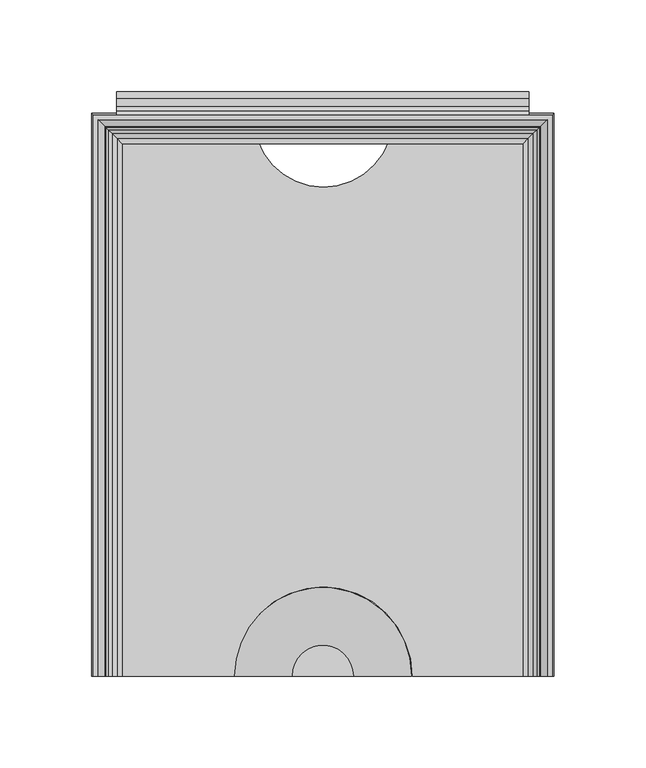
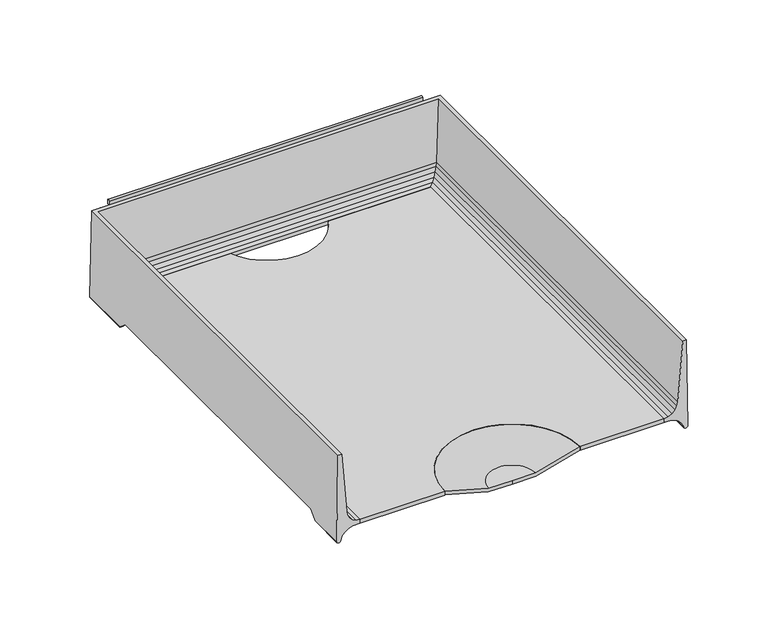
"""IFC4 building model written with IfcOpenShell, lengths in millimetres: furniture geometry."""

from ifc_helpers import new_model, si_unit, point, frame, frame_2d, origin, place, context, project, spatial, polyline, circle_curve, ellipse_curve, trimmed, segment, composite_curve, outline, extrude, source, transform, mapped, element, save
from ifc_brep_helpers import plane_surface, cylinder_surface, revolved_surface, advanced_brep


def furniture_ed62e435(model_context):
    return source(origin(), model_context, "Body", "SolidModel", [
        advanced_brep(
        [(126.0820502, -154.0206082, 875.9882489), (125.1325529, -154.0206082, 941.3876914), (122.4547921, -154.0206082, 941.3876914), (118.8379747, -154.0206082, 896.6006003), (118.4123648, -154.0206082, 893.8671052), (117.0774354, -154.0206082, 891.1660664), (114.9656457, -154.0206082, 889.0171015), (112.28832, -154.0206082, 887.6352261), (109.3133381, -154.0206082, 887.1587052), (109.3133381, -154.0206082, 884.3365971), (114.5666739, -154.0206082, 884.1435987), (117.605351, -154.0206082, 883.0872218), (120.2416, -154.0206082, 881.2433822), (122.2762142, -154.0206082, 878.7514079), (123.1625518, -154.0206082, 875.7081655), (126.0820502, -127.6379698, 875.9882489), (126.0026181, -121.5231874, 881.459372), (126.0026181, 109.0611937, 881.459372), (126.0820502, 115.1759816, 875.9882489), (126.0820502, 153.036442, 875.9882489), (125.1325529, 152.0869447, 941.3876914), (-125.1325529, 152.0869447, 941.3876914), (-125.1325529, -154.0206082, 941.3876914), (-122.4547921, -154.0206082, 941.3876914), (-122.4547921, 149.4091839, 941.3876914), (122.4547921, 149.4091839, 941.3876914), (118.8379747, 145.7923665, 896.6006003), (118.4123648, 145.3667566, 893.8671052), (117.0774354, 144.0318272, 891.1660664), (114.9656457, 141.9200375, 889.0171015), (112.28832, 139.2427118, 887.6352261), (109.3133381, 136.2677299, 887.1587052), (109.3133381, 136.2677299, 884.3365971), (114.5666739, 141.5210656, 884.1435987), (117.605351, 144.5597428, 883.0872218), (120.2416, 147.1959918, 881.2433822), (120.2416, 109.3025941, 881.2433822), (119.9327864, 109.0611937, 881.459372), (119.9327864, -121.5231874, 881.459372), (120.2416, -121.7645876, 881.2433822), (122.2762142, -124.5497344, 878.7514079), (122.2762142, 149.230606, 878.7514079), (122.2762142, 112.0877435, 878.7514079), (123.1625518, -127.9510041, 875.7081655), (123.1625518, 150.1169436, 875.7081655), (123.1625518, 115.4890162, 875.7081655), (-126.0820502, 153.036442, 875.9882489), (-118.8379747, 145.7923665, 896.6006003), (-118.4123648, 145.3667566, 893.8671052), (-117.0774354, 144.0318272, 891.1660664), (-114.9656457, 141.9200375, 889.0171015), (-112.28832, 139.2427118, 887.6352261), (-109.3133381, 136.2677299, 887.1587052), (-109.3133381, 136.2677299, 884.3365971), (-114.5666739, 141.5210656, 884.1435987), (-117.605351, 144.5597428, 883.0872218), (-120.2416, 147.1959918, 881.2433822), (-122.2762142, 149.230606, 878.7514079), (-123.1625518, 150.1169436, 875.7081655), (-126.0820502, -154.0206082, 875.9882489), (-123.1625518, -154.0206082, 875.7081655), (-122.2762142, -154.0206082, 878.7514079), (-120.2416, -154.0206082, 881.2433822), (-117.605351, -154.0206082, 883.0872218), (-114.5666739, -154.0206082, 884.1435987), (-109.3133381, -154.0206082, 884.3365971), (-109.3133381, -154.0206082, 887.1587052), (-112.28832, -154.0206082, 887.6352261), (-114.9656457, -154.0206082, 889.0171015), (-117.0774354, -154.0206082, 891.1660664), (-118.4123648, -154.0206082, 893.8671052), (-118.8379747, -154.0206082, 896.6006003), (-126.0820502, 115.1759816, 875.9882489), (-126.0026181, 109.0611937, 881.459372), (-126.0026181, -121.5231874, 881.459372), (-126.0820502, -127.6379698, 875.9882489), (-120.2416, -121.7645876, 881.2433822), (-119.9327864, -121.5231874, 881.459372), (-119.9327864, 109.0611937, 881.459372), (-120.2416, 109.3025941, 881.2433822), (-122.2762142, 112.0877435, 878.7514079), (-122.2762142, -124.5497344, 878.7514079), (-123.1625518, 115.4890162, 875.7081655), (-123.1625518, -127.9510041, 875.7081655)],
        [
            (0, 1),
            (1, 2),
            (2, 3),
            (3, 4),
            (4, 5),
            (5, 6),
            (6, 7),
            (7, 8),
            (8, 9),
            (9, 10),
            (10, 11),
            (11, 12),
            (12, 13),
            (13, 14),
            (14, 0, circle_curve(frame((124.5859452, -154.0206082, 876.2271685), z_axis=(0.0, -1.0, 0.0), x_axis=(-1.0, 0.0, 0.0)), 1.515062)),
            (0, 15),
            (15, 16),
            (16, 17),
            (17, 18),
            (18, 19),
            (19, 20),
            (20, 1),
            (20, 21),
            (21, 22),
            (22, 23),
            (23, 24),
            (24, 25),
            (25, 2),
            (25, 26),
            (26, 3),
            (26, 27),
            (27, 4),
            (27, 28),
            (28, 5),
            (28, 29),
            (29, 6),
            (29, 30),
            (30, 7),
            (30, 31),
            (31, 8),
            (31, 32),
            (32, 9),
            (32, 33),
            (33, 10),
            (33, 34),
            (34, 11),
            (34, 35),
            (35, 36),
            (36, 37),
            (37, 38),
            (38, 39),
            (39, 12),
            (39, 40),
            (40, 13),
            (35, 41),
            (41, 42),
            (42, 36),
            (40, 43),
            (43, 14),
            (41, 44),
            (44, 45),
            (45, 42),
            (43, 15, ellipse_curve(frame((124.5859452, -127.3709422, 876.2271685), z_axis=(0.0, -0.6667949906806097, 0.7452411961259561), x_axis=(0.0, -0.7452411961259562, -0.6667949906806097)), 2.2721556, 1.515062)),
            (44, 19, ellipse_curve(frame((124.5859452, 151.540337, 876.2271685), z_axis=(0.7071067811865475, -0.7071067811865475, 0.0), x_axis=(-0.7071067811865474, -0.7071067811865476, 0.0)), 2.1426212, 1.515062)),
            (18, 45, ellipse_curve(frame((124.5859452, 114.9089538, 876.2271685), z_axis=(0.0, 0.6667946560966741, 0.7452414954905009), x_axis=(0.0, -0.7452414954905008, 0.6667946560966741)), 2.2721567, 1.515062)),
            (19, 46),
            (46, 21),
            (24, 47),
            (47, 26),
            (47, 48),
            (48, 27),
            (48, 49),
            (49, 28),
            (49, 50),
            (50, 29),
            (50, 51),
            (51, 30),
            (51, 52),
            (52, 31),
            (52, 53),
            (53, 32),
            (53, 54),
            (54, 33),
            (54, 55),
            (55, 34),
            (55, 56),
            (56, 35),
            (56, 57),
            (57, 41),
            (57, 58),
            (58, 44),
            (58, 46, ellipse_curve(frame((-124.5859452, 151.540337, 876.2271685), z_axis=(0.7071067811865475, 0.7071067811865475, 0.0), x_axis=(0.7071067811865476, -0.7071067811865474, 0.0)), 2.1426212, 1.515062)),
            (22, 59),
            (59, 60, circle_curve(frame((-124.5859452, -154.0206082, 876.2271685), z_axis=(0.0, -1.0, 0.0), x_axis=(1.0, 0.0, 0.0)), 1.515062)),
            (60, 61),
            (61, 62),
            (62, 63),
            (63, 64),
            (64, 65),
            (65, 66),
            (66, 67),
            (67, 68),
            (68, 69),
            (69, 70),
            (70, 71),
            (71, 23),
            (46, 72),
            (72, 73),
            (73, 74),
            (74, 75),
            (75, 59),
            (71, 47),
            (70, 48),
            (69, 49),
            (68, 50),
            (67, 51),
            (66, 52),
            (65, 53),
            (64, 54),
            (63, 55),
            (62, 76),
            (76, 77),
            (77, 78),
            (78, 79),
            (79, 56),
            (79, 80),
            (80, 57),
            (61, 81),
            (81, 76),
            (80, 82),
            (82, 58),
            (60, 83),
            (83, 81),
            (82, 72, ellipse_curve(frame((-124.5859452, 114.9089538, 876.2271685), z_axis=(0.0, 0.6667946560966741, 0.7452414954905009), x_axis=(0.0, 0.7452414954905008, -0.6667946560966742)), 2.2721567, 1.515062)),
            (75, 83, ellipse_curve(frame((-124.5859452, -127.3709422, 876.2271685), z_axis=(0.0, -0.6667949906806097, 0.7452411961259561), x_axis=(0.0, 0.745241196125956, 0.6667949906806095)), 2.2721556, 1.515062)),
            (38, 16),
            (74, 77),
            (37, 17),
            (73, 78),
        ],
        [
            plane_surface(frame((127.0, -154.0206082, 874.7125), z_axis=(0.0, -1.0, 0.0), x_axis=(0.0, 0.0, 1.0))),
            plane_surface(frame((126.0820502, -154.0206082, 875.9882489), z_axis=(0.9998946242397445, 0.0, 0.014516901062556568), x_axis=(0.0, 1.0, 0.0))),
            plane_surface(frame((125.1325529, -154.0206082, 941.3876914), z_axis=(0.0, 0.0, 1.0), x_axis=(0.0, 1.0, 0.0))),
            plane_surface(frame((122.4547921, -154.0206082, 941.3876914), z_axis=(-0.9967551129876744, 0.0, 0.08049375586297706), x_axis=(0.0, 1.0, 0.0))),
            plane_surface(frame((118.8379747, -154.0206082, 896.6006003), z_axis=(-0.9880945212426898, 0.0, 0.15384803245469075), x_axis=(0.0, 1.0, 0.0))),
            plane_surface(frame((118.4123648, -154.0206082, 893.8671052), z_axis=(-0.8964873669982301, 0.0, 0.44306929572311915), x_axis=(0.0, 1.0, 0.0))),
            plane_surface(frame((117.0774354, -154.0206082, 891.1660664), z_axis=(-0.7132491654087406, 0.0, 0.7009105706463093), x_axis=(0.0, 1.0, 0.0))),
            plane_surface(frame((114.9656457, -154.0206082, 889.0171015), z_axis=(-0.45865074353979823, 0.0, 0.8886166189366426), x_axis=(0.0, 1.0, 0.0))),
            plane_surface(frame((112.28832, -154.0206082, 887.6352261), z_axis=(-0.15816001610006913, 0.0, 0.987413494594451), x_axis=(0.0, 1.0, 0.0))),
            plane_surface(frame((109.3133381, -154.0206082, 887.1587052), z_axis=(-1.0, 0.0, 0.0), x_axis=(0.0, 1.0, 0.0))),
            plane_surface(frame((109.3133381, -154.0206082, 884.3365971), z_axis=(-0.036713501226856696, 0.0, -0.9993258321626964), x_axis=(0.0, 1.0, 0.0))),
            plane_surface(frame((114.5666739, -154.0206082, 884.1435987), z_axis=(-0.3283669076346, 0.0, -0.9445502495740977), x_axis=(0.0, 1.0, 0.0))),
            plane_surface(frame((117.605351, -154.0206082, 883.0872218), z_axis=(-0.5731421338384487, 0.0, -0.819455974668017), x_axis=(0.0, 1.0, 0.0))),
            plane_surface(frame((120.2416, -154.0206082, 881.2433822), z_axis=(-0.77460799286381, 0.0, -0.6324416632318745), x_axis=(0.0, 1.0, 0.0))),
            plane_surface(frame((122.2762142, -154.0206082, 878.7514079), z_axis=(-0.9601080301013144, 0.0, -0.2796293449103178), x_axis=(0.0, 1.0, 0.0))),
            cylinder_surface(frame((124.5859452, -154.0206082, 876.2271685), z_axis=(0.0, -1.0, 0.0), x_axis=(-1.0, 0.0, 0.0)), 1.515062),
            plane_surface(frame((126.0820502, 153.036442, 875.9882489), z_axis=(0.0, 0.9998946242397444, 0.014516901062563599), x_axis=(-1.0, 0.0, 0.0))),
            plane_surface(frame((122.4547921, 149.4091839, 941.3876914), z_axis=(0.0, -0.9967551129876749, 0.08049375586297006), x_axis=(-1.0, 0.0, 0.0))),
            plane_surface(frame((118.8379747, 145.7923665, 896.6006003), z_axis=(0.0, -0.9880945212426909, 0.15384803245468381), x_axis=(-1.0, 0.0, 0.0))),
            plane_surface(frame((118.4123648, 145.3667566, 893.8671052), z_axis=(0.0, -0.8964873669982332, 0.4430692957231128), x_axis=(-1.0, 0.0, 0.0))),
            plane_surface(frame((117.0774354, 144.0318272, 891.1660664), z_axis=(0.0, -0.7132491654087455, 0.7009105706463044), x_axis=(-1.0, 0.0, 0.0))),
            plane_surface(frame((114.9656457, 141.9200375, 889.0171015), z_axis=(0.0, -0.4586507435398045, 0.8886166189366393), x_axis=(-1.0, 0.0, 0.0))),
            plane_surface(frame((112.28832, 139.2427118, 887.6352261), z_axis=(0.0, -0.15816001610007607, 0.9874134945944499), x_axis=(-1.0, 0.0, 0.0))),
            plane_surface(frame((109.3133381, 136.2677299, 887.1587052), z_axis=(0.0, -1.0, 0.0), x_axis=(-1.0, 0.0, 0.0))),
            plane_surface(frame((109.3133381, 136.2677299, 884.3365971), z_axis=(0.0, -0.03671350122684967, -0.9993258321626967), x_axis=(-1.0, 0.0, 0.0))),
            plane_surface(frame((114.5666739, 141.5210656, 884.1435987), z_axis=(0.0, -0.32836690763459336, -0.9445502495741), x_axis=(-1.0, 0.0, 0.0))),
            plane_surface(frame((117.605351, 144.5597428, 883.0872218), z_axis=(0.0, -0.5731421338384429, -0.819455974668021), x_axis=(-1.0, 0.0, 0.0))),
            plane_surface(frame((120.2416, 147.1959918, 881.2433822), z_axis=(0.0, -0.7746079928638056, -0.6324416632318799), x_axis=(-1.0, 0.0, 0.0))),
            plane_surface(frame((122.2762142, 149.230606, 878.7514079), z_axis=(0.0, -0.9601080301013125, -0.27962934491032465), x_axis=(-1.0, 0.0, 0.0))),
            cylinder_surface(frame((127.0, 151.540337, 876.2271685), z_axis=(1.0, 0.0, 0.0), x_axis=(0.0, -1.0, 0.0)), 1.515062),
            plane_surface(frame((-127.0, -154.0206082, 874.7125), z_axis=(0.0, -1.0, 0.0), x_axis=(0.0, 0.0, 1.0))),
            plane_surface(frame((-126.0820502, 153.036442, 875.9882489), z_axis=(-0.9998946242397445, 0.0, 0.014516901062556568), x_axis=(0.0, -1.0, 0.0))),
            plane_surface(frame((-122.4547921, 149.4091839, 941.3876914), z_axis=(0.9967551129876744, 0.0, 0.08049375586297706), x_axis=(0.0, -1.0, 0.0))),
            plane_surface(frame((-118.8379747, 145.7923665, 896.6006003), z_axis=(0.9880945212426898, 0.0, 0.15384803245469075), x_axis=(0.0, -1.0, 0.0))),
            plane_surface(frame((-118.4123648, 145.3667566, 893.8671052), z_axis=(0.8964873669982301, 0.0, 0.44306929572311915), x_axis=(0.0, -1.0, 0.0))),
            plane_surface(frame((-117.0774354, 144.0318272, 891.1660664), z_axis=(0.7132491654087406, 0.0, 0.7009105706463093), x_axis=(0.0, -1.0, 0.0))),
            plane_surface(frame((-114.9656457, 141.9200375, 889.0171015), z_axis=(0.45865074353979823, 0.0, 0.8886166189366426), x_axis=(0.0, -1.0, 0.0))),
            plane_surface(frame((-112.28832, 139.2427118, 887.6352261), z_axis=(0.15816001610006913, 0.0, 0.987413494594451), x_axis=(0.0, -1.0, 0.0))),
            plane_surface(frame((-109.3133381, 136.2677299, 887.1587052), z_axis=(1.0, 0.0, 0.0), x_axis=(0.0, -1.0, 0.0))),
            plane_surface(frame((-109.3133381, 136.2677299, 884.3365971), z_axis=(0.036713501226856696, 0.0, -0.9993258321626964), x_axis=(0.0, -1.0, 0.0))),
            plane_surface(frame((-114.5666739, 141.5210656, 884.1435987), z_axis=(0.3283669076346, 0.0, -0.9445502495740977), x_axis=(0.0, -1.0, 0.0))),
            plane_surface(frame((-117.605351, 144.5597428, 883.0872218), z_axis=(0.5731421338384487, 0.0, -0.819455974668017), x_axis=(0.0, -1.0, 0.0))),
            plane_surface(frame((-120.2416, 147.1959918, 881.2433822), z_axis=(0.77460799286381, 0.0, -0.6324416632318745), x_axis=(0.0, -1.0, 0.0))),
            plane_surface(frame((-122.2762142, 149.230606, 878.7514079), z_axis=(0.9601080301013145, 0.0, -0.2796293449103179), x_axis=(0.0, -1.0, 0.0))),
            cylinder_surface(frame((-124.5859452, 153.9543918, 876.2271685), z_axis=(0.0, 1.0, 0.0), x_axis=(1.0, 0.0, 0.0)), 1.515062),
            plane_surface(frame((-127.0, -130.1695728, 873.7231296), z_axis=(0.0, 0.6667949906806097, -0.7452411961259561), x_axis=(1.0, 0.0, 0.0))),
            plane_surface(frame((-127.0, -121.5231874, 881.459372), z_axis=(0.0, 0.0, -1.0), x_axis=(1.0, 0.0, 0.0))),
            plane_surface(frame((-127.0, 109.0611937, 881.459372), z_axis=(0.0, -0.6667946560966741, -0.7452414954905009), x_axis=(1.0, 0.0, 0.0))),
        ],
        [
            (0, [[1, 2, 3, 4, 5, 6, 7, 8, 9, 10, 11, 12, 13, 14, 15]]),
            (1, [[-1, 16, 17, 18, 19, 20, 21, 22]]),
            (2, [[-2, -22, 23, 24, 25, 26, 27, 28]]),
            (3, [[-3, -28, 29, 30]]),
            (4, [[-4, -30, 31, 32]]),
            (5, [[-5, -32, 33, 34]]),
            (6, [[-6, -34, 35, 36]]),
            (7, [[-7, -36, 37, 38]]),
            (8, [[-8, -38, 39, 40]]),
            (9, [[-9, -40, 41, 42]]),
            (10, [[-10, -42, 43, 44]]),
            (11, [[-11, -44, 45, 46]]),
            (12, [[-12, -46, 47, 48, 49, 50, 51, 52]]),
            (13, [[-13, -52, 53, 54]]),
            (13, [[55, 56, 57, -48]]),
            (14, [[-14, -54, 58, 59]]),
            (14, [[60, 61, 62, -56]]),
            (15, [[-15, -59, 63, -16]]),
            (15, [[64, -20, 65, -61]]),
            (16, [[-21, 66, 67, -23]]),
            (17, [[-27, 68, 69, -29]]),
            (18, [[-31, -69, 70, 71]]),
            (19, [[-33, -71, 72, 73]]),
            (20, [[-35, -73, 74, 75]]),
            (21, [[-37, -75, 76, 77]]),
            (22, [[-39, -77, 78, 79]]),
            (23, [[-41, -79, 80, 81]]),
            (24, [[-43, -81, 82, 83]]),
            (25, [[-45, -83, 84, 85]]),
            (26, [[-47, -85, 86, 87]]),
            (27, [[-55, -87, 88, 89]]),
            (28, [[-60, -89, 90, 91]]),
            (29, [[-64, -91, 92, -66]]),
            (30, [[-25, 93, 94, 95, 96, 97, 98, 99, 100, 101, 102, 103, 104, 105, 106]]),
            (31, [[-24, -67, 107, 108, 109, 110, 111, -93]]),
            (32, [[-26, -106, 112, -68]]),
            (33, [[-70, -112, -105, 113]]),
            (34, [[-72, -113, -104, 114]]),
            (35, [[-74, -114, -103, 115]]),
            (36, [[-76, -115, -102, 116]]),
            (37, [[-78, -116, -101, 117]]),
            (38, [[-80, -117, -100, 118]]),
            (39, [[-82, -118, -99, 119]]),
            (40, [[-84, -119, -98, 120]]),
            (41, [[-86, -120, -97, 121, 122, 123, 124, 125]]),
            (42, [[-88, -125, 126, 127]]),
            (42, [[-96, 128, 129, -121]]),
            (43, [[-90, -127, 130, 131]]),
            (43, [[-95, 132, 133, -128]]),
            (44, [[-92, -131, 134, -107]]),
            (44, [[-94, -111, 135, -132]]),
            (45, [[136, -17, -63, -58, -53, -51]]),
            (45, [[137, -122, -129, -133, -135, -110]]),
            (46, [[-136, -50, 138, -18]]),
            (46, [[-137, -109, 139, -123]]),
            (47, [[-138, -49, -57, -62, -65, -19]]),
            (47, [[-139, -108, -134, -130, -126, -124]]),
        ],
    ),
        extrude(outline(composite_curve([segment(polyline([(-109.3647805, 138.2769393), (-35.6610422, 138.2769393)]), True, "CONTINUOUS"), segment(trimmed(circle_curve(frame_2d((0.3369133, 150.6584166)), 38.0677525), [point((-35.6610422, 138.2769393))], [point((36.3348688, 138.2769393))], True, "CARTESIAN"), True, "CONTINUOUS"), segment(polyline([(36.3348688, 138.2769393), (109.6504969, 138.2769393), (109.6504969, -153.9875), (48.9112184, -153.9875)]), True, "CONTINUOUS"), segment(trimmed(circle_curve(frame_2d((0.2842795, -153.9323196)), 48.6269702), [point((48.9112184, -153.9875))], [point((-48.3426595, -153.9875))], True, "CARTESIAN"), True, "CONTINUOUS"), segment(polyline([(-48.3426595, -153.9875), (-109.3647805, -153.9875), (-109.3647805, 138.2769393)]), True, "CONTINUOUS")], self_intersect=False)), frame((0.0, 0.0, 884.3189677), z_axis=(0.0, 0.0, 1.0), x_axis=(1.0, 0.0, 0.0)), (0.0, 0.0, 1.0), 2.8395461),
        extrude(outline(composite_curve([segment(trimmed(circle_curve(frame_2d((162.7186949, 925.5582343)), 1.9049988), [point((164.6236937, 925.5582343))], [point((160.8136962, 925.5582343))], False, "CARTESIAN"), True, "CONTINUOUS"), segment(polyline([(160.8136962, 925.5582343), (160.8136962, 928.9872311), (160.0516969, 929.7492303), (156.4380325, 929.7492303), (152.1427596, 927.4018331), (152.1427596, 935.9066285), (156.4380325, 933.5592312), (160.8136928, 933.5592312)]), True, "CONTINUOUS"), segment(trimmed(circle_curve(frame_2d((160.8136928, 929.7492303)), 3.8100009), [point((160.8136928, 933.5592312))], [point((164.6236937, 929.7492303))], False, "CARTESIAN"), True, "CONTINUOUS"), segment(polyline([(164.6236937, 929.7492303), (164.6236937, 925.5582343)]), True, "CONTINUOUS")], self_intersect=False)), frame((-112.5397809, 0.0, 0.0), z_axis=(1.0, 0.0, 0.0), x_axis=(0.0, 1.0, 0.0)), (0.0, 0.0, 1.0), 225.0795617),
        advanced_brep(
        [(-16.8929028, -153.9875, 878.284375), (-48.4614622, -153.9875, 887.1920432), (-48.4614622, -153.9875, 884.6005018), (-16.9249292, -153.9875, 875.7018704), (0.0, -153.9875, 875.7018704), (0.0, -153.9875, 878.284375), (16.8929028, -153.9875, 878.284375), (16.9249292, -153.9875, 875.7018704), (48.4614622, -153.9875, 884.6005018), (48.4614622, -153.9875, 887.1920432)],
        [
            (0, 1),
            (1, 2),
            (2, 3),
            (3, 4),
            (4, 5),
            (5, 0),
            (6, 5),
            (4, 7),
            (7, 8),
            (8, 9),
            (9, 6),
            (9, 1, circle_curve(frame((0.0, -153.9875, 887.1920432), z_axis=(0.0, 0.0, 1.0), x_axis=(-1.0, 0.0, 0.0)), 48.4614622)),
            (0, 6, circle_curve(frame((0.0, -153.9875, 878.284375), z_axis=(0.0, 0.0, -1.0), x_axis=(-1.0, 0.0, 0.0)), 16.8929028)),
            (8, 2, circle_curve(frame((0.0, -153.9875, 884.6005018), z_axis=(0.0, 0.0, 1.0), x_axis=(-1.0, 0.0, 0.0)), 48.4614622)),
            (7, 3, circle_curve(frame((0.0, -153.9875, 875.7018704), z_axis=(0.0, 0.0, 1.0), x_axis=(-1.0, 0.0, 0.0)), 16.9249292)),
        ],
        [
            plane_surface(frame((0.0, -153.9875, 874.7125), z_axis=(0.0, -1.0, 0.0), x_axis=(-1.0, 0.0, 0.0))),
            plane_surface(frame((0.0, -153.9875, 874.7125), z_axis=(0.0, -1.0, 0.0), x_axis=(1.0, 0.0, 0.0))),
            revolved_surface(polyline([(-48.4614622, -153.9875, 887.1920432), (-16.8929028, -153.9875, 878.284375)]), (0.0, -153.9875, 874.7125), (0.0, 0.0, 1.0)),
            cylinder_surface(frame((0.0, -153.9875, 874.7125), z_axis=(0.0, 0.0, 1.0), x_axis=(-1.0, 0.0, 0.0)), 48.4614622),
            revolved_surface(polyline([(-16.9249292, -153.9875, 875.7018704), (-48.4614622, -153.9875, 884.6005018)]), (0.0, -153.9875, 874.7125), (0.0, 0.0, 1.0)),
            plane_surface(frame((0.0, -153.9875, 875.7018704), z_axis=(0.0, 0.0, -1.0), x_axis=(-1.0, 0.0, 0.0))),
            plane_surface(frame((0.0, -153.9875, 878.284375), z_axis=(0.0, 0.0, 1.0), x_axis=(-1.0, 0.0, 0.0))),
        ],
        [
            (0, [[1, 2, 3, 4, 5, 6]]),
            (1, [[7, -5, 8, 9, 10, 11]]),
            (2, [[12, -1, 13, -11]]),
            (3, [[14, -2, -12, -10]]),
            (4, [[15, -3, -14, -9]]),
            (5, [[-4, -15, -8]]),
            (6, [[-13, -6, -7]]),
        ],
    ),
        extrude(outline(composite_curve([segment(polyline([(153.9875, 941.3875), (152.1427596, 941.3875), (152.1427596, 944.2190333)]), True, "CONTINUOUS"), segment(trimmed(circle_curve(frame_2d((153.0651298, 943.9137665)), 0.9715733), [point((152.1427596, 944.2190333))], [point((153.9875, 944.2190333))], False, "CARTESIAN"), True, "CONTINUOUS"), segment(polyline([(153.9875, 944.2190333), (153.9875, 941.3875)]), True, "CONTINUOUS")], self_intersect=False)), frame((-112.5397809, 0.0, 0.0), z_axis=(1.0, 0.0, 0.0), x_axis=(0.0, 1.0, 0.0)), (0.0, 0.0, 1.0), 225.0795617),
    ])


if __name__ == "__main__":
    model = new_model("IFC4")
    model_context = context("Model", 3, world=origin())
    ifc_project = project(units=[si_unit("LENGTHUNIT", "METRE", prefix="MILLI")], contexts=[model_context])
    site = spatial("IfcSite", under=ifc_project)
    building = spatial("IfcBuilding", under=site)
    placement = place(None, origin())
    furniture_shape = furniture_ed62e435(model_context)
    element("IfcFurniture", 1, ObjectType="HermanMiller_ThrivePortfolio_Y7216_PaperTray : 3\"H x 12\"D x 10\"W", at=placement, inside=building, context=model_context, shape_type="MappedRepresentation", body=[
        mapped(furniture_shape, transform((0.0, 0.0, 0.0), x_axis=(1.0, 0.0, 0.0), y_axis=(0.0, 1.0, 0.0), z_axis=(0.0, 0.0, 1.0))),
    ])
    save(model, "model.ifc")
